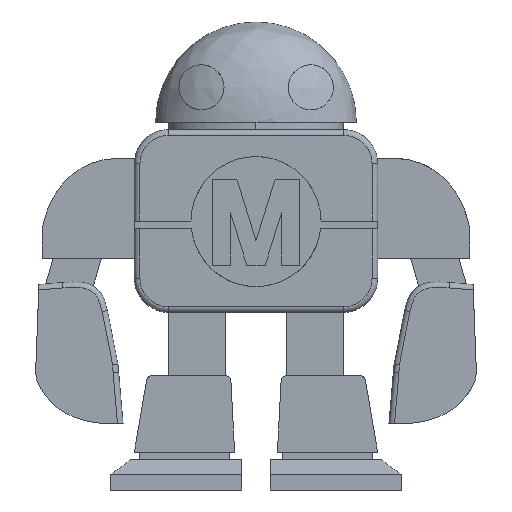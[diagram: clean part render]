
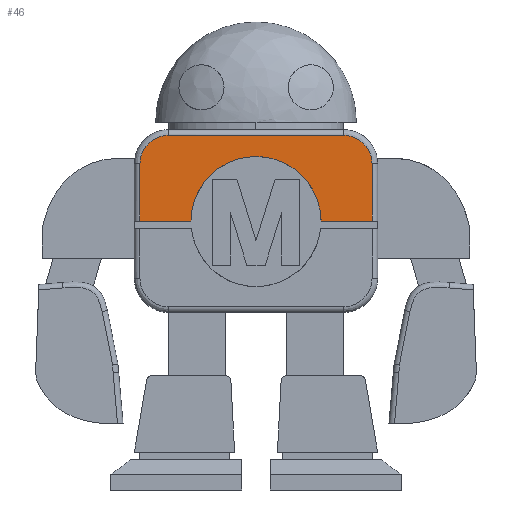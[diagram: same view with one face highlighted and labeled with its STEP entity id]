
A CAD part, front view. The second image highlights one B-rep face of the part: STEP entity #46.
In plain terms, the highlighted planar face has unit normal (0, -1, 0).
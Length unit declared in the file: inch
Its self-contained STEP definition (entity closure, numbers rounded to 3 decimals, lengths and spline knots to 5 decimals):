
#46=ADVANCED_FACE('',(#201),#2620,.T.);
#201=FACE_OUTER_BOUND('',#357,.T.);
#357=EDGE_LOOP('',(#700,#701,#702,#703,#704,#705,#706,#707));
#700=ORIENTED_EDGE('',*,*,#1575,.T.);
#701=ORIENTED_EDGE('',*,*,#1578,.F.);
#702=ORIENTED_EDGE('',*,*,#1505,.T.);
#703=ORIENTED_EDGE('',*,*,#1500,.T.);
#704=ORIENTED_EDGE('',*,*,#1501,.T.);
#705=ORIENTED_EDGE('',*,*,#1569,.F.);
#706=ORIENTED_EDGE('',*,*,#1571,.T.);
#707=ORIENTED_EDGE('',*,*,#1573,.F.);
#1500=EDGE_CURVE('',#2358,#2359,#1917,.T.);
#1501=EDGE_CURVE('',#2359,#2393,#1918,.T.);
#1505=EDGE_CURVE('',#2394,#2358,#1922,.T.);
#1569=EDGE_CURVE('',#2407,#2393,#2161,.T.);
#1571=EDGE_CURVE('',#2407,#2408,#2163,.T.);
#1573=EDGE_CURVE('',#2405,#2408,#2165,.T.);
#1575=EDGE_CURVE('',#2405,#2406,#2167,.T.);
#1578=EDGE_CURVE('',#2394,#2406,#2169,.T.);
#1917=B_SPLINE_CURVE_WITH_KNOTS('',3,(#4416,#4417,#4418,#4419,#4420,#4421,
#4422),.UNSPECIFIED.,.F.,.F.,(4,3,4),(0.,1.,2.),.UNSPECIFIED.);
#1918=B_SPLINE_CURVE_WITH_KNOTS('',1,(#4423,#4424),.UNSPECIFIED.,.F.,.F.,
(2,2),(24.16417,33.63127),.UNSPECIFIED.);
#1922=B_SPLINE_CURVE_WITH_KNOTS('',1,(#4431,#4432),.UNSPECIFIED.,.F.,.F.,
(2,2),(-9.4671,0.),.UNSPECIFIED.);
#2161=(
BOUNDED_CURVE()
B_SPLINE_CURVE(1,(#4578,#4579),.UNSPECIFIED.,.F.,.F.)
B_SPLINE_CURVE_WITH_KNOTS((2,2),(0.,0.51412),
 .UNSPECIFIED.)
CURVE()
GEOMETRIC_REPRESENTATION_ITEM()
RATIONAL_B_SPLINE_CURVE((1.,1.))
REPRESENTATION_ITEM('')
);
#2163=(
BOUNDED_CURVE()
B_SPLINE_CURVE(3,(#4583,#4584,#4585,#4586),.UNSPECIFIED.,.F.,.F.)
B_SPLINE_CURVE_WITH_KNOTS((4,4),(0.,0.39944),
 .UNSPECIFIED.)
CURVE()
GEOMETRIC_REPRESENTATION_ITEM()
RATIONAL_B_SPLINE_CURVE((1.,1.,1.,1.))
REPRESENTATION_ITEM('')
);
#2165=(
BOUNDED_CURVE()
B_SPLINE_CURVE(1,(#4590,#4591),.UNSPECIFIED.,.F.,.F.)
B_SPLINE_CURVE_WITH_KNOTS((2,2),(0.,1.57239),
 .UNSPECIFIED.)
CURVE()
GEOMETRIC_REPRESENTATION_ITEM()
RATIONAL_B_SPLINE_CURVE((1.,1.))
REPRESENTATION_ITEM('')
);
#2167=(
BOUNDED_CURVE()
B_SPLINE_CURVE(3,(#4595,#4596,#4597,#4598),.UNSPECIFIED.,.F.,.F.)
B_SPLINE_CURVE_WITH_KNOTS((4,4),(0.,0.39944),.UNSPECIFIED.)
CURVE()
GEOMETRIC_REPRESENTATION_ITEM()
RATIONAL_B_SPLINE_CURVE((1.,1.,1.,1.))
REPRESENTATION_ITEM('')
);
#2169=(
BOUNDED_CURVE()
B_SPLINE_CURVE(1,(#4605,#4606),.UNSPECIFIED.,.F.,.F.)
B_SPLINE_CURVE_WITH_KNOTS((2,2),(0.,0.51412),
 .UNSPECIFIED.)
CURVE()
GEOMETRIC_REPRESENTATION_ITEM()
RATIONAL_B_SPLINE_CURVE((1.,1.))
REPRESENTATION_ITEM('')
);
#2358=VERTEX_POINT('',#3878);
#2359=VERTEX_POINT('',#3879);
#2393=VERTEX_POINT('',#3913);
#2394=VERTEX_POINT('',#3914);
#2405=VERTEX_POINT('',#3925);
#2406=VERTEX_POINT('',#3926);
#2407=VERTEX_POINT('',#3927);
#2408=VERTEX_POINT('',#3928);
#2620=PLANE('',#2880);
#2880=AXIS2_PLACEMENT_3D('',#3698,#3037,$);
#3037=DIRECTION('',(0.,-1.,0.));
#3698=CARTESIAN_POINT('',(-35.04211,27.26564,1.93032));
#3878=CARTESIAN_POINT('',(-34.53493,27.26564,1.93032));
#3879=CARTESIAN_POINT('',(-33.368,27.26564,1.93032));
#3913=CARTESIAN_POINT('',(-32.91082,27.26564,1.93032));
#3914=CARTESIAN_POINT('',(-34.99211,27.26564,1.93032));
#3925=CARTESIAN_POINT('',(-34.73766,27.26564,2.69889));
#3926=CARTESIAN_POINT('',(-34.99211,27.26564,2.44444));
#3927=CARTESIAN_POINT('',(-32.91082,27.26564,2.44444));
#3928=CARTESIAN_POINT('',(-33.16527,27.26564,2.69889));
#4416=CARTESIAN_POINT('',(-34.53493,27.26564,1.93032));
#4417=CARTESIAN_POINT('',(-34.53237,27.26564,2.25043));
#4418=CARTESIAN_POINT('',(-34.27218,27.26564,2.50917));
#4419=CARTESIAN_POINT('',(-33.95146,27.26564,2.50917));
#4420=CARTESIAN_POINT('',(-33.63075,27.26564,2.50917));
#4421=CARTESIAN_POINT('',(-33.37056,27.26564,2.25043));
#4422=CARTESIAN_POINT('',(-33.368,27.26564,1.93032));
#4423=CARTESIAN_POINT('',(-33.368,27.26564,1.93032));
#4424=CARTESIAN_POINT('',(-32.91082,27.26564,1.93032));
#4431=CARTESIAN_POINT('',(-34.99211,27.26564,1.93032));
#4432=CARTESIAN_POINT('',(-34.53493,27.26564,1.93032));
#4578=CARTESIAN_POINT('',(-32.91082,27.26564,2.44444));
#4579=CARTESIAN_POINT('',(-32.91082,27.26564,1.93032));
#4583=CARTESIAN_POINT('',(-32.91082,27.26564,2.44444));
#4584=CARTESIAN_POINT('',(-32.90755,27.26564,2.58016));
#4585=CARTESIAN_POINT('',(-33.02955,27.26564,2.70216));
#4586=CARTESIAN_POINT('',(-33.16527,27.26564,2.69889));
#4590=CARTESIAN_POINT('',(-34.73766,27.26564,2.69889));
#4591=CARTESIAN_POINT('',(-33.16527,27.26564,2.69889));
#4595=CARTESIAN_POINT('',(-34.73766,27.26564,2.69889));
#4596=CARTESIAN_POINT('',(-34.87337,27.26564,2.70216));
#4597=CARTESIAN_POINT('',(-34.99537,27.26564,2.58016));
#4598=CARTESIAN_POINT('',(-34.99211,27.26564,2.44444));
#4605=CARTESIAN_POINT('',(-34.99211,27.26564,1.93032));
#4606=CARTESIAN_POINT('',(-34.99211,27.26564,2.44444));
